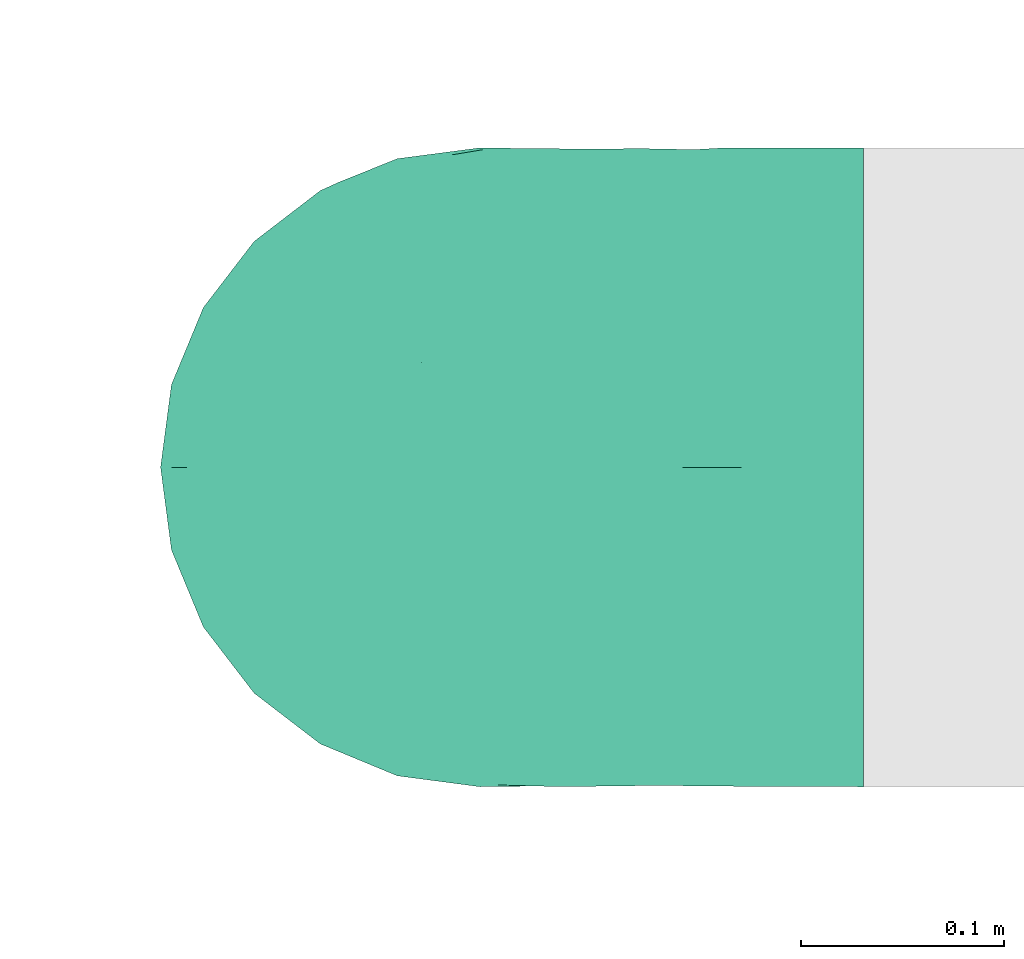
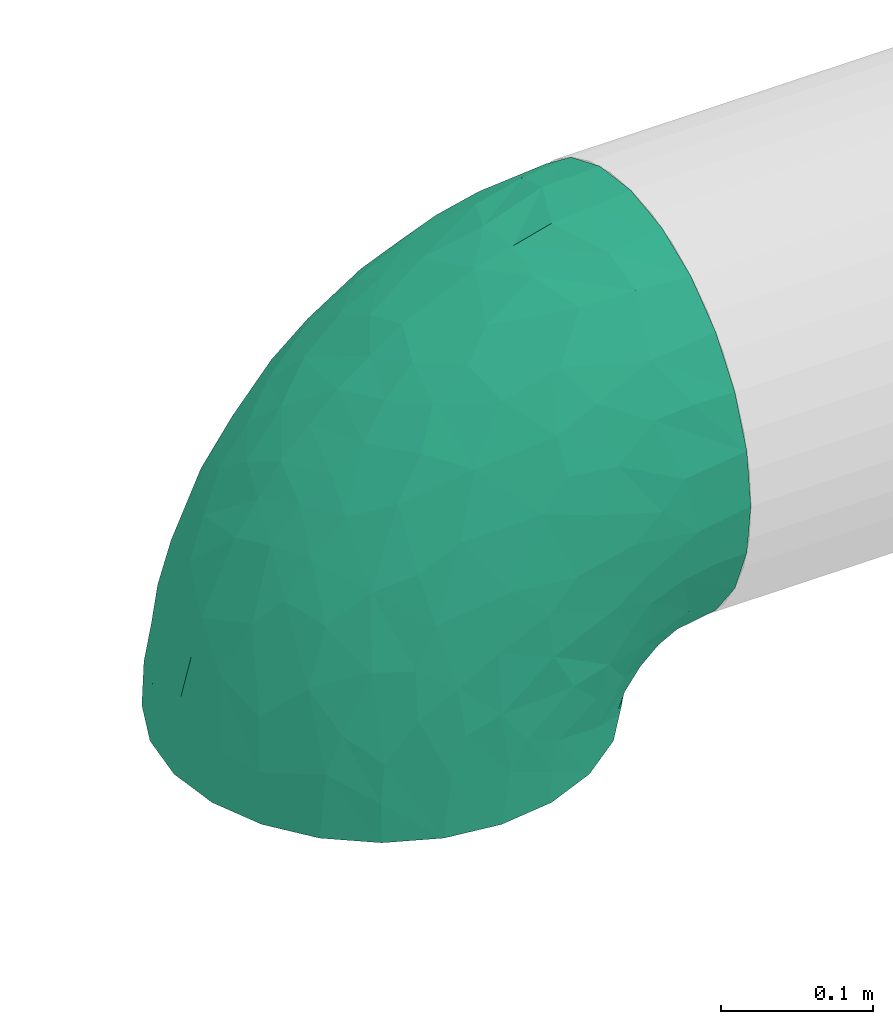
# One storey, part 8 of 10: 1 flow fitting.
"""IFC2X3 building model written with IfcOpenShell, lengths in millimetres."""

from ifc_helpers import new_model, entity, si_unit, converted_unit, derived_unit, direction, frame, origin_with_axes, place, context, subcontext, project, spatial, open_shell, surface_model, source, transform, mapped, type_object, element, save


model = new_model("IFC2X3")

# Units and contexts
model_context = context("Model", 3, precision=0.01, world=frame((0.0, 4.29681676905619e-09, 0.0)), true_north=direction((4.01073788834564e-13, 1.0)))
plan_context = context("Plan", 3, precision=0.01, world=frame((0.0, 4.29681676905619e-09, 0.0)), true_north=direction((4.01073788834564e-13, 1.0)))
body_context = subcontext(model_context, "Body", "Model", "MODEL_VIEW")
ifc_project = project(units=[converted_unit("PLANEANGLEUNIT", "DEGREE", entity("IfcPositiveLengthMeasure", 0.0174532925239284), si_unit("PLANEANGLEUNIT", "RADIAN"), dimensions=[0, 0, 0, 0, 0, 0, 0]), si_unit("AREAUNIT", "SQUARE_METRE"), si_unit("LENGTHUNIT", "METRE", prefix="MILLI"), si_unit("MASSUNIT", "GRAM", prefix="KILO"), si_unit("POWERUNIT", "WATT"), si_unit("PRESSUREUNIT", "PASCAL"), si_unit("FORCEUNIT", "NEWTON", prefix="KILO"), si_unit("ELECTRICCURRENTUNIT", "AMPERE"), si_unit("THERMODYNAMICTEMPERATUREUNIT", "DEGREE_CELSIUS"), si_unit("TIMEUNIT", "SECOND"), si_unit("VOLUMEUNIT", "CUBIC_METRE"), derived_unit("LINEARVELOCITYUNIT", [(si_unit("LENGTHUNIT", "METRE"), 1), (si_unit("TIMEUNIT", "SECOND"), -1)]), derived_unit("VOLUMETRICFLOWRATEUNIT", [(si_unit("VOLUMEUNIT", "CUBIC_METRE"), 1), (si_unit("TIMEUNIT", "SECOND"), -1)]), derived_unit("THERMALTRANSMITTANCEUNIT", [(si_unit("POWERUNIT", "WATT"), 1), (si_unit("THERMODYNAMICTEMPERATUREUNIT", "KELVIN"), -1), (si_unit("AREAUNIT", "SQUARE_METRE"), -1)])], contexts=[model_context, plan_context])

# Site, building, storey
site_placement = place(None, frame((0.0, -4.29681676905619e-09, 0.0), z_axis=(0.0, 0.0, 1.0), x_axis=(1.0, 0.0, 0.0)))
site = spatial("IfcSite", under=ifc_project, at=site_placement, CompositionType="ELEMENT")
building_placement = place(site_placement, frame((0.0, 4.29681676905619e-09, 0.0), z_axis=(0.0, 0.0, 1.0), x_axis=(1.0, 0.0, 0.0)))
building = spatial("IfcBuilding", under=site, at=building_placement, Name="mc-building", CompositionType="ELEMENT")
storey_placement = place(building_placement, frame((0.0, 0.0, 200300.0), z_axis=(0.0, 0.0, 1.0), x_axis=(1.0, 0.0, 0.0)))
storey = spatial("IfcBuildingStorey", under=building, at=storey_placement, Name="Nivå C", CompositionType="ELEMENT", Elevation=200300.0)

# Flow fitting
duct_fitting_type = type_object("IfcDuctFittingType", Name="magicirc_elbow_short_001", PredefinedType="BEND")
shared_shape = source(origin_with_axes(), body_context, "Body", "SurfaceModel", [
    surface_model("IfcShellBasedSurfaceModel", [(-189.0, 78.75, -136.39901), (-189.0, 40.764, -152.13332), (-189.0, 0.0, -157.5), (-189.0, 111.36932, -111.36932), (-189.0, 152.13332, -40.764), (-189.0, 136.39901, -78.75), (-189.0, -78.75, -136.39901), (-189.0, -111.36932, -111.36932), (-189.0, -40.764, -152.13332), (-189.0, -152.13332, -40.764), (-189.0, -136.39901, -78.75), (-189.0, -157.5, 0.0), (-189.0, -152.13332, 40.764), (-189.0, 136.39901, 78.75), (-189.0, 152.13332, 40.764), (-189.0, 111.36932, 111.36932), (-189.0, 78.75, 136.39901), (-189.0, -136.39901, 78.75), (-189.0, -111.36932, 111.36932), (-189.0, -78.75, 136.39901), (-189.0, -40.764, 152.13332), (-189.0, 0.0, 157.5), (-189.0, 40.764, 152.13332), (0.0, 189.0, -157.5), (-40.764, 189.0, -152.13332), (-78.75, 189.0, -136.39901), (-111.36932, 189.0, -111.36932), (-136.39901, 189.0, -78.75), (-152.13332, 189.0, -40.764), (152.13332, 189.0, 40.764), (152.13332, 189.0, -40.764), (40.764, 189.0, -152.13332), (111.36932, 189.0, -111.36932), (78.75, 189.0, -136.39901), (136.39901, 189.0, -78.75), (157.5, 189.0, 0.0), (-152.13332, 189.0, 40.764), (-111.36932, 189.0, 111.36932), (-136.39901, 189.0, 78.75), (-78.75, 189.0, 136.39901), (-40.764, 189.0, 152.13332), (111.36932, 189.0, 111.36932), (136.39901, 189.0, 78.75), (40.764, 189.0, 152.13332), (78.75, 189.0, 136.39901), (0.0, 189.0, 157.5), (-157.5, 189.0, 0.0), (-146.82647, -148.73404, 43.55813), (-152.53698, -154.30989, 0.0), (-128.83091, -152.23588, 0.0), (49.033, 86.74286, 141.05575), (73.96756, 50.08962, 114.25948), (80.71898, 84.48868, 121.46737), (93.7561, -8.98795, 0.0), (68.80167, -29.22878, 51.72126), (76.4344, -33.72591, 0.0), (-97.37792, -140.80841, 36.13658), (-99.66046, -144.41969, 0.0), (-85.08944, 153.36086, 136.16868), (-70.49002, -136.60349, 0.0), (-52.11329, -124.77074, 36.00089), (-140.73024, -35.43399, 152.18621), (-160.5858, -130.32816, 86.54689), (-138.12227, -106.88194, 111.51409), (-121.65457, -76.11965, 132.88842), (-160.87463, -69.15915, 140.74672), (-25.25045, -109.00671, 44.67122), (-15.75, -111.0778, 0.0), (8.98795, -93.7561, 0.0), (35.48323, 140.48111, 152.15935), (-105.77141, -98.25391, 112.65537), (-125.05707, 110.33905, 130.87226), (-118.33723, 141.04327, 118.63047), (-140.45256, 132.57189, 108.08216), (-84.20627, -128.87676, 59.80247), (-42.24478, 37.80735, 155.99735), (-76.09851, 23.47671, 157.08968), (-21.97676, 5.08153, 145.85286), (-148.3241, 46.79067, 152.04619), (-141.07596, 83.6671, 139.4155), (-169.61846, 88.65571, 131.42231), (-149.86377, 7.0178, 157.47409), (-164.24817, 142.27922, 79.21812), (-38.90905, -74.51537, 108.39982), (-21.51185, -31.1381, 130.88448), (-78.48781, -47.09871, 140.242), (-158.04301, 118.06714, 111.13197), (-161.49592, 161.49592, 47.69938), (-189.0, 157.5, 0.0), (-173.25, 161.7202, 0.0), (-71.14672, 117.54032, 148.95444), (-48.53381, 80.38159, 157.08422), (-38.0499, 105.94603, 156.61108), (-107.82752, -27.46831, 151.74483), (25.98079, -68.52928, 57.91101), (-2.49207, -89.842, 57.91101), (18.17919, -85.25948, 29.47632), (106.91243, 137.86518, 111.44051), (107.98856, 76.77233, 91.09139), (132.43407, 110.53889, 68.40105), (98.22703, 106.22366, 112.80306), (49.87623, -56.82814, 34.06048), (76.2184, 120.66886, 132.67152), (69.30601, 160.29705, 140.64149), (148.73404, 146.82647, 43.55813), (136.44937, 149.61971, 74.39319), (141.15744, 96.23303, 33.28536), (154.30989, 152.53698, 0.0), (-79.14709, -78.07857, 121.85468), (-142.50673, 156.96891, 85.08305), (-6.25371, 146.56094, 157.49386), (-119.18069, 168.29594, 106.34604), (-7.7712, 37.9551, 150.34868), (-161.7202, 173.25, 0.0), (20.73863, 22.80421, 136.4838), (45.79638, 11.43074, 117.05167), (46.64669, 45.96804, 131.51649), (17.71633, 115.68288, 154.55145), (-44.71298, 135.75281, 153.51583), (124.10348, 54.99065, 42.78832), (19.23744, 59.23612, 147.07076), (-59.757, 189.0, 144.26616), (-40.39445, 162.15387, 152.84988), (-106.89705, 54.01286, 154.41806), (42.62384, -42.62385, 74.87208), (-103.67825, -119.29128, 87.6164), (-122.10302, -132.77719, 72.81501), (-74.73976, -107.05822, 91.29409), (-58.68494, -13.38955, 148.76775), (-33.42967, -98.98136, 75.3332), (-12.93373, -80.09293, 85.03047), (-57.45365, -116.48754, 64.67941), (144.41969, 99.66046, 0.0), (63.28555, -3.7111, 91.11734), (26.66288, -18.86236, 112.20397), (-88.20665, 88.20664, 150.49261), (-99.84608, 118.68975, 138.24779), (89.842, 2.49207, 57.91101), (107.83801, 32.48682, 57.64226), (89.5215, 29.9536, 86.32806), (-17.27408, 120.20724, 157.449), (103.18655, 7.97929, 29.47632), (136.60349, 70.49002, 0.0), (4.52175, -58.17888, 95.91834), (-25.69452, 61.39509, 156.43932), (-0.8953, 89.70214, 155.70588), (-71.774, 57.87122, 156.95328), (111.0778, 15.75, 0.0), (123.84065, 43.12001, 0.0), (-128.59823, 21.61394, 157.11194), (-102.54228, 0.8839, 156.46427), (-43.12001, -123.84065, 0.0), (152.23588, 128.83091, 0.0), (33.72591, -76.4344, 0.0), (55.08015, -55.08015, 0.0), (3.04001, -8.98392, 131.40941), (-149.37334, 6.90093, -157.47789), (-127.65053, 19.54445, -157.25505), (-101.63434, 0.86217, -156.41758), (-149.881, 117.88366, -114.79529), (-168.97769, 112.18181, -113.09611), (-171.44166, 138.11591, -80.8385), (-97.65829, -53.6841, -140.93797), (-128.71073, -75.30605, -134.41229), (-142.28639, -35.12049, -152.3525), (-14.53623, 14.53621, -146.53876), (19.21591, -10.56392, -122.16443), (-32.58138, -35.5269, -132.82409), (-161.49592, 161.49592, -47.69938), (-27.84596, 112.602, -157.13925), (-46.89661, 87.05932, -156.86637), (-54.76208, 116.09995, -153.27291), (24.54996, -65.39931, -65.68692), (62.53428, -39.64599, -45.03474), (42.35247, -61.80031, -40.474), (-85.22006, 154.17109, -135.94475), (-68.67661, 39.77392, -157.47698), (-96.27985, 86.46587, -149.09616), (-189.0, 59.757, -144.26616), (-164.33677, 41.04681, -152.5937), (-56.04714, 0.71063, -151.93473), (106.68579, 139.72934, -111.97263), (108.82999, 81.61939, -92.33309), (90.16092, 95.61076, -117.0636), (-143.49405, 167.03036, -75.05192), (-154.59868, 143.86665, -85.53345), (-146.82647, -148.73404, -43.55813), (-139.72934, -106.68579, -111.97263), (-158.69814, -78.71922, -135.41598), (-109.30616, -96.88101, -114.84542), (-154.17109, 85.22006, -135.94475), (-122.7277, 106.27562, -133.8534), (-97.06108, 118.571, -139.46376), (-124.29608, 79.85164, -144.73443), (-149.61972, -136.44937, -74.39319), (-96.23303, -141.15744, -33.28536), (-54.06704, -123.39932, -43.77526), (-110.5389, -132.43407, -68.40105), (-135.48821, 131.24593, -112.46181), (75.91681, 64.4352, -118.50759), (-107.08066, 157.86996, -120.54603), (32.57609, 42.69927, -137.66346), (59.9817, 10.07153, -104.76193), (75.30605, 128.71071, -134.41229), (53.6841, 97.65827, -140.93797), (35.1205, 142.28638, -152.3525), (-45.33369, 140.10537, -153.03377), (-41.04681, 164.33677, -152.5937), (-59.757, 189.0, -144.26616), (-189.0, 123.88416, -95.05966), (-6.90093, 149.37331, -157.47789), (101.88085, 6.10023, -30.06201), (83.56153, -18.18278, -35.84847), (88.95677, 3.68958, -61.33662), (-73.96886, 100.59351, -151.25205), (78.71922, 158.69814, -135.41597), (59.757, 189.0, -144.26616), (94.06788, 40.28144, -87.79988), (107.297, 31.95277, -58.22044), (148.73404, 146.82647, -43.55813), (136.44937, 149.61971, -74.39319), (25.69513, 78.83868, -148.56019), (52.78982, 64.18559, -133.79037), (141.15744, 96.23303, -33.28536), (123.39931, 54.06704, -43.77527), (-99.67042, 56.5784, -154.75725), (-81.6194, -108.82999, -92.33309), (-140.10539, 45.33368, -153.03377), (-64.43522, -75.91682, -118.50759), (-62.75607, -51.57693, -134.04781), (-14.17822, -66.28312, -101.5314), (65.05234, -15.13826, -77.86444), (37.80166, -37.80167, -86.30899), (132.43407, 110.53889, -68.40105), (16.73141, 123.34849, -155.1767), (-0.86217, 101.63431, -156.41758), (-125.84608, 166.17885, -99.79484), (-118.31036, 141.35192, -118.49872), (-13.21391, 58.80011, -154.66423), (-36.36222, 37.14521, -155.28703), (-112.79208, -24.56514, -152.90791), (-39.63577, -93.47058, -88.13749), (-6.61847, -102.14217, -30.33919), (-32.26173, -107.24999, -58.68616), (-135.56345, 151.20073, -97.68664), (-3.68958, -88.95677, -61.33662), (-0.69072, -39.04419, -115.81001), (-77.00417, -27.43387, -147.69846), (21.29912, -81.73119, -33.87707), (-189.0, 144.26616, -59.757), (-189.0, -59.757, -144.26616)], [open_shell([[[0, 1, 2]], [[3, 0, 2]], [[4, 5, 3]], [[6, 7, 8]], [[9, 8, 7]], [[10, 9, 7]], [[9, 2, 8]], [[11, 12, 9]], [[13, 14, 15]], [[16, 15, 12]], [[17, 18, 12]], [[18, 16, 12]], [[19, 20, 18]], [[21, 18, 20]], [[18, 21, 22]], [[23, 24, 25]], [[23, 25, 26]], [[26, 27, 28]], [[23, 26, 29]], [[30, 23, 29]], [[31, 32, 33]], [[32, 31, 30]], [[32, 30, 34]], [[31, 23, 30]], [[30, 29, 35]], [[28, 29, 26]], [[28, 36, 37]], [[37, 36, 38]], [[29, 37, 39]], [[37, 29, 28]], [[39, 40, 41]], [[29, 41, 42]], [[29, 39, 41]], [[41, 43, 44]], [[43, 41, 45]], [[40, 45, 41]], [[36, 28, 46]], [[47, 48, 49]], [[50, 51, 52]], [[53, 54, 55]], [[47, 12, 48]], [[56, 47, 57]], [[39, 37, 58]], [[56, 59, 60]], [[20, 61, 21]], [[62, 18, 17]], [[63, 64, 65]], [[66, 67, 68]], [[43, 45, 69]], [[47, 17, 12]], [[64, 63, 70]], [[71, 72, 73]], [[56, 60, 74]], [[75, 76, 77]], [[18, 63, 19]], [[78, 79, 80]], [[81, 22, 21]], [[61, 20, 65]], [[13, 82, 14]], [[83, 84, 85]], [[15, 86, 13]], [[87, 88, 14]], [[88, 87, 89]], [[90, 91, 92]], [[61, 85, 93]], [[16, 80, 15]], [[94, 95, 96]], [[46, 87, 36]], [[97, 98, 99]], [[65, 20, 19]], [[52, 98, 100]], [[94, 96, 101]], [[102, 69, 50]], [[43, 103, 44]], [[44, 97, 41]], [[104, 105, 106]], [[103, 69, 102]], [[104, 107, 29]], [[44, 103, 97]], [[106, 105, 99]], [[104, 29, 42]], [[108, 64, 70]], [[87, 82, 109]], [[45, 40, 110]], [[109, 111, 38]], [[86, 82, 13]], [[77, 112, 75]], [[100, 97, 102]], [[89, 87, 113]], [[114, 115, 116]], [[113, 87, 46]], [[16, 22, 78]], [[87, 109, 36]], [[110, 69, 45]], [[69, 110, 117]], [[58, 90, 118]], [[37, 38, 111]], [[15, 80, 86]], [[99, 98, 119]], [[116, 50, 120]], [[121, 39, 122]], [[39, 58, 122]], [[79, 78, 123]], [[62, 63, 18]], [[124, 101, 54]], [[125, 126, 74]], [[105, 97, 99]], [[85, 61, 64]], [[61, 93, 81]], [[127, 108, 70]], [[85, 84, 128]], [[129, 130, 83]], [[127, 125, 131]], [[104, 106, 132]], [[124, 133, 134]], [[81, 78, 22]], [[79, 123, 135]], [[71, 86, 79]], [[82, 86, 73]], [[111, 58, 37]], [[72, 71, 136]], [[137, 138, 139]], [[122, 40, 121]], [[110, 122, 140]], [[141, 138, 137]], [[106, 119, 142]], [[117, 50, 69]], [[143, 134, 84]], [[144, 120, 145]], [[135, 91, 90]], [[75, 91, 146]], [[128, 77, 76]], [[129, 127, 131]], [[94, 143, 130]], [[57, 59, 56]], [[62, 47, 126]], [[105, 104, 42]], [[119, 147, 148]], [[61, 81, 21]], [[149, 81, 150]], [[149, 123, 78]], [[146, 76, 75]], [[86, 71, 73]], [[14, 82, 87]], [[111, 109, 72]], [[36, 109, 38]], [[79, 135, 71]], [[136, 135, 90]], [[47, 49, 57]], [[60, 59, 151]], [[47, 56, 126]], [[66, 95, 129]], [[56, 74, 126]], [[132, 106, 142]], [[132, 152, 104]], [[119, 106, 99]], [[131, 74, 60]], [[74, 131, 125]], [[70, 125, 127]], [[63, 126, 125]], [[66, 131, 60]], [[131, 66, 129]], [[60, 67, 66]], [[68, 96, 66]], [[96, 153, 101]], [[153, 96, 68]], [[66, 96, 95]], [[101, 153, 154]], [[53, 141, 54]], [[101, 124, 94]], [[94, 124, 143]], [[134, 143, 124]], [[84, 83, 143]], [[54, 133, 124]], [[114, 77, 155]], [[130, 129, 95]], [[127, 129, 83]], [[139, 133, 137]], [[51, 116, 115]], [[94, 130, 95]], [[83, 130, 143]], [[55, 54, 101]], [[133, 54, 137]], [[149, 150, 76]], [[138, 141, 119]], [[119, 98, 138]], [[139, 98, 51]], [[98, 139, 138]], [[133, 139, 51]], [[136, 58, 72]], [[146, 91, 135]], [[144, 75, 112]], [[145, 140, 92]], [[72, 109, 73]], [[82, 73, 109]], [[42, 41, 105]], [[97, 105, 41]], [[135, 123, 146]], [[123, 149, 76]], [[123, 76, 146]], [[128, 76, 150]], [[128, 150, 93]], [[128, 84, 77]], [[155, 77, 84]], [[112, 77, 114]], [[120, 112, 114]], [[75, 144, 91]], [[116, 120, 114]], [[117, 120, 50]], [[114, 134, 115]], [[50, 116, 51]], [[134, 133, 115]], [[51, 115, 133]], [[120, 144, 112]], [[92, 144, 145]], [[135, 136, 71]], [[58, 136, 90]], [[84, 134, 155]], [[114, 155, 134]], [[12, 11, 48]], [[107, 104, 152]], [[107, 35, 29]], [[58, 111, 72]], [[69, 103, 43]], [[97, 103, 102]], [[47, 62, 17]], [[63, 62, 126]], [[63, 65, 19]], [[61, 65, 64]], [[78, 80, 16]], [[86, 80, 79]], [[122, 58, 118]], [[140, 122, 118]], [[110, 40, 122]], [[125, 70, 63]], [[108, 127, 83]], [[83, 85, 108]], [[85, 64, 108]], [[128, 93, 85]], [[81, 93, 150]], [[52, 100, 102]], [[98, 97, 100]], [[50, 52, 102]], [[98, 52, 51]], [[92, 140, 118]], [[117, 140, 145]], [[90, 92, 118]], [[92, 91, 144]], [[140, 117, 110]], [[117, 145, 120]], [[147, 119, 141]], [[148, 142, 119]], [[78, 81, 149]], [[67, 60, 151]], [[55, 101, 154]], [[156, 157, 158]], [[159, 160, 161]], [[162, 163, 164]], [[165, 166, 167]], [[2, 1, 156]], [[89, 168, 88]], [[169, 170, 171]], [[172, 173, 174]], [[25, 175, 26]], [[88, 168, 4]], [[176, 177, 170]], [[178, 0, 179]], [[176, 180, 158]], [[181, 182, 183]], [[168, 184, 185]], [[10, 186, 9]], [[187, 188, 189]], [[0, 3, 190]], [[186, 48, 9]], [[30, 35, 107]], [[177, 191, 192]], [[6, 187, 7]], [[193, 190, 191]], [[186, 194, 195]], [[59, 196, 151]], [[28, 184, 168]], [[163, 188, 8]], [[194, 197, 195]], [[159, 198, 191]], [[33, 32, 181]], [[168, 89, 113]], [[199, 183, 182]], [[46, 28, 168]], [[8, 2, 164]], [[200, 26, 175]], [[201, 202, 166]], [[203, 204, 205]], [[206, 175, 25]], [[207, 208, 24]], [[161, 160, 209]], [[23, 31, 205]], [[184, 28, 27]], [[55, 154, 173]], [[23, 210, 24]], [[211, 212, 213]], [[25, 208, 207]], [[177, 192, 214]], [[33, 215, 216]], [[217, 218, 213]], [[213, 218, 211]], [[186, 195, 57]], [[31, 216, 215]], [[219, 220, 34]], [[221, 204, 222]], [[132, 223, 219]], [[147, 211, 224]], [[107, 152, 219]], [[30, 107, 219]], [[193, 177, 225]], [[187, 226, 197]], [[161, 4, 168]], [[34, 30, 219]], [[227, 179, 0]], [[203, 205, 31]], [[228, 229, 230]], [[46, 168, 113]], [[202, 231, 232]], [[226, 196, 197]], [[220, 181, 32]], [[181, 233, 182]], [[203, 183, 204]], [[210, 234, 235]], [[156, 164, 2]], [[163, 162, 228]], [[189, 228, 226]], [[194, 187, 197]], [[160, 3, 209]], [[190, 159, 191]], [[170, 214, 171]], [[236, 200, 237]], [[238, 170, 169]], [[157, 225, 158]], [[239, 170, 238]], [[176, 239, 180]], [[194, 186, 10]], [[195, 196, 59]], [[132, 142, 223]], [[219, 223, 220]], [[1, 178, 179]], [[156, 158, 240]], [[205, 210, 23]], [[210, 235, 169]], [[224, 182, 233]], [[217, 199, 182]], [[228, 189, 163]], [[211, 218, 224]], [[230, 241, 228]], [[242, 196, 243]], [[226, 241, 243]], [[242, 67, 196]], [[27, 236, 184]], [[198, 185, 244]], [[244, 184, 236]], [[5, 161, 209]], [[57, 195, 59]], [[57, 49, 186]], [[196, 195, 197]], [[219, 152, 132]], [[224, 233, 223]], [[223, 233, 220]], [[222, 204, 199]], [[204, 221, 234]], [[201, 222, 202]], [[201, 165, 238]], [[202, 199, 217]], [[166, 202, 232]], [[241, 230, 245]], [[201, 166, 165]], [[246, 232, 230]], [[162, 247, 229]], [[158, 247, 240]], [[247, 158, 180]], [[246, 230, 167]], [[172, 230, 232]], [[243, 241, 245]], [[226, 228, 241]], [[26, 236, 27]], [[244, 236, 237]], [[26, 200, 236]], [[192, 200, 175]], [[198, 244, 237]], [[185, 184, 244]], [[237, 192, 191]], [[185, 198, 159]], [[237, 191, 198]], [[191, 177, 193]], [[200, 192, 237]], [[206, 171, 175]], [[225, 177, 176]], [[227, 190, 193]], [[158, 225, 176]], [[227, 193, 225]], [[192, 175, 171]], [[170, 177, 214]], [[171, 214, 192]], [[169, 171, 206]], [[210, 169, 206]], [[169, 235, 238]], [[243, 245, 242]], [[226, 243, 196]], [[248, 242, 245]], [[248, 68, 242]], [[245, 172, 248]], [[174, 153, 248]], [[248, 172, 174]], [[154, 153, 174]], [[173, 232, 231]], [[230, 172, 245]], [[173, 172, 232]], [[68, 248, 153]], [[68, 67, 242]], [[154, 174, 173]], [[10, 7, 194]], [[187, 194, 7]], [[181, 220, 233]], [[32, 34, 220]], [[238, 235, 221]], [[239, 238, 165]], [[218, 182, 224]], [[202, 217, 213]], [[182, 218, 217]], [[224, 142, 148]], [[211, 147, 53]], [[212, 173, 231]], [[53, 212, 211]], [[212, 53, 55]], [[55, 173, 212]], [[48, 186, 49]], [[48, 11, 9]], [[4, 161, 249]], [[159, 190, 160]], [[190, 3, 160]], [[215, 203, 31]], [[33, 181, 215]], [[181, 203, 215]], [[163, 8, 164]], [[227, 0, 190]], [[157, 179, 227]], [[156, 1, 179]], [[207, 210, 206]], [[210, 207, 24]], [[25, 207, 206]], [[165, 167, 180]], [[228, 162, 229]], [[167, 247, 180]], [[240, 162, 164]], [[162, 240, 247]], [[156, 240, 164]], [[247, 167, 229]], [[230, 229, 167]], [[179, 157, 156]], [[225, 157, 227]], [[210, 205, 234]], [[204, 234, 205]], [[204, 183, 199]], [[181, 183, 203]], [[142, 224, 223]], [[148, 147, 224]], [[226, 187, 189]], [[196, 67, 151]], [[161, 168, 185]], [[161, 5, 249]], [[159, 161, 185]], [[202, 222, 199]], [[221, 222, 201]], [[238, 221, 201]], [[221, 235, 234]], [[202, 213, 231]], [[231, 213, 212]], [[167, 166, 246]], [[232, 246, 166]], [[180, 239, 165]], [[170, 239, 176]], [[2, 4, 3]], [[9, 4, 2]], [[88, 4, 9]], [[15, 14, 9]], [[12, 15, 9]], [[16, 18, 22]], [[88, 9, 14]], [[137, 54, 141]], [[53, 147, 141]], [[188, 187, 6]], [[188, 6, 250]], [[8, 188, 250]], [[188, 163, 189]]])]),
])
flow_fitting_placement = place(storey_placement, frame((528368.0, 404770.474, 2857.5), z_axis=(0.0, 1.0, 0.0), x_axis=(0.0, 0.0, 1.0)))
element("IfcFlowFitting", 1, at=flow_fitting_placement, inside=storey, type_object=duct_fitting_type, Name="magicirc_elbow_short_001", context=body_context, shape_type="MappedRepresentation", body=[
    mapped(shared_shape, transform((0.0, 0.0, 0.0), scale=1.0)),
])

save(model, "model.ifc")
